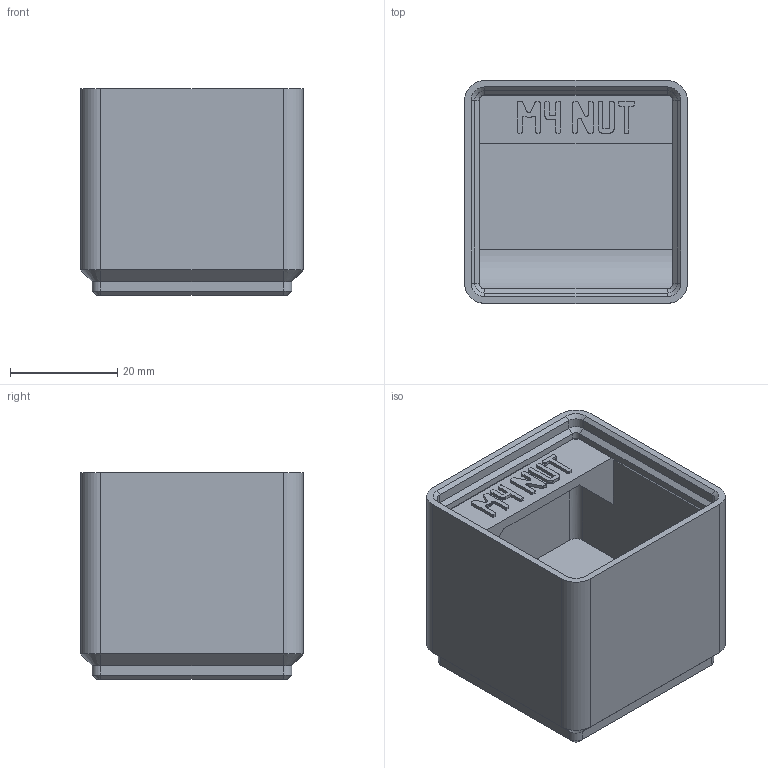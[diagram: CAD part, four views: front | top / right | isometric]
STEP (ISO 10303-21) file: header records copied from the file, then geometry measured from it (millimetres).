
FILE_DESCRIPTION(('Open CASCADE Model'),'2;1');
FILE_NAME('Open CASCADE Shape Model','2026-11-03T10:36:24',('Author'),( 'Open CASCADE'),'Open CASCADE STEP processor 8.0','build123d', 'Unknown');
FILE_SCHEMA(('AUTOMOTIVE_DESIGN { 1 0 10303 214 1 1 1 1 }'));
Length unit declared in the file: millimetre
Products named in the file (1): COMPOUND
Bounding box: 41.5 x 41.5 x 38.55 mm (x, y, z)
Volume: 27574 mm3; surface area: 13867.4 mm2
Topology: 1 solids, 1 shells, 508 faces, 1440 edges, 940 vertices
Faces by surface type: plane 467, cylinder 21, cone 20
Entity records: 34071 total; most frequent: CARTESIAN_POINT 7139, DIRECTION 4329, LINE 3196, VECTOR 3196, ORIENTED_EDGE 2880, PCURVE 2880, DEFINITIONAL_REPRESENTATION 2880, EDGE_CURVE 1440
